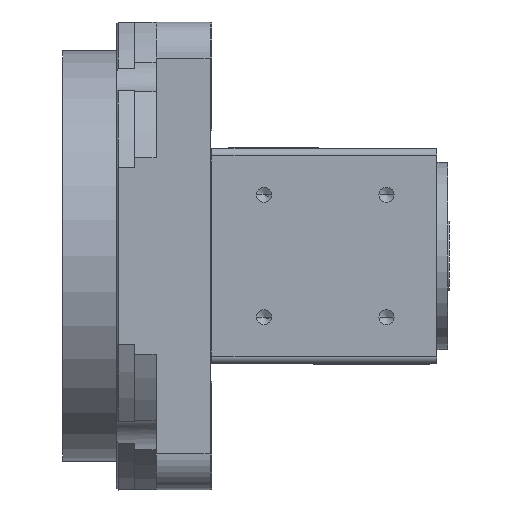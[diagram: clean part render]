
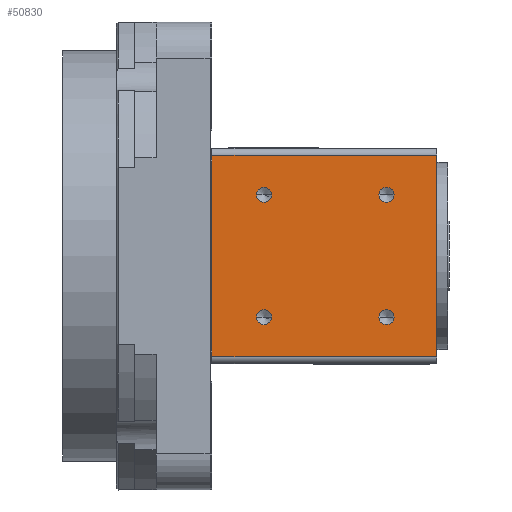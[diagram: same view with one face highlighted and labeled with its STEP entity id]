
A CAD part, left-side view. The second image highlights one B-rep face of the part: STEP entity #50830.
In plain terms, the highlighted planar face has unit normal (-1, 0, 0) as drawn and (0, 1, 0) by its records, which use the part's own axes.
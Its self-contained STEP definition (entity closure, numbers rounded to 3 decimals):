
#370 = ORIENTED_EDGE ( 'NONE', *, *, #48750, .F. ) ;
#797 = ORIENTED_EDGE ( 'NONE', *, *, #66424, .F. ) ;
#2903 = CIRCLE ( 'NONE', #64538, 2.1 ) ;
#2982 = CARTESIAN_POINT ( 'NONE',  ( 17., 32., 19.1 ) ) ;
#5212 = CARTESIAN_POINT ( 'NONE',  ( -30., 32., 68.5 ) ) ;
#7297 = VERTEX_POINT ( 'NONE', #68619 ) ;
#8015 = FACE_OUTER_BOUND ( 'NONE', #32156, .T. ) ;
#8608 = CIRCLE ( 'NONE', #8961, 2.1 ) ;
#8961 = AXIS2_PLACEMENT_3D ( 'NONE', #77478, #77285, #77226 ) ;
#9336 = ORIENTED_EDGE ( 'NONE', *, *, #12305, .F. ) ;
#9453 = ORIENTED_EDGE ( 'NONE', *, *, #28003, .F. ) ;
#12305 = EDGE_CURVE ( 'NONE', #22581, #30643, #39893, .T. ) ;
#14210 = EDGE_CURVE ( 'NONE', #42172, #62481, #20465, .T. ) ;
#14314 = LINE ( 'NONE', #38491, #27038 ) ;
#16028 = CARTESIAN_POINT ( 'NONE',  ( -17., 32., 48.9 ) ) ;
#16467 = EDGE_CURVE ( 'NONE', #47685, #73725, #8608, .T. ) ;
#16894 = CIRCLE ( 'NONE', #20444, 2.1 ) ;
#17859 = VERTEX_POINT ( 'NONE', #58390 ) ;
#17878 = DIRECTION ( 'NONE',  ( 0., -1., 0. ) ) ;
#20444 = AXIS2_PLACEMENT_3D ( 'NONE', #65899, #29630, #72028 ) ;
#20465 = CIRCLE ( 'NONE', #59215, 2.1 ) ;
#20505 = EDGE_LOOP ( 'NONE', ( #56010, #29330 ) ) ;
#20799 = CARTESIAN_POINT ( 'NONE',  ( 28., 32., 65.5 ) ) ;
#21068 = EDGE_CURVE ( 'NONE', #73725, #47685, #27999, .T. ) ;
#22219 = CIRCLE ( 'NONE', #56528, 2.1 ) ;
#22232 = ORIENTED_EDGE ( 'NONE', *, *, #16467, .F. ) ;
#22325 = CARTESIAN_POINT ( 'NONE',  ( -17., 32., 14.9 ) ) ;
#22411 = VERTEX_POINT ( 'NONE', #28673 ) ;
#22581 = VERTEX_POINT ( 'NONE', #20799 ) ;
#23100 = ORIENTED_EDGE ( 'NONE', *, *, #59312, .F. ) ;
#24691 = FACE_BOUND ( 'NONE', #66562, .T. ) ;
#24857 = AXIS2_PLACEMENT_3D ( 'NONE', #60566, #66135, #38213 ) ;
#26276 = VECTOR ( 'NONE', #74587, 1000. ) ;
#26645 = FACE_BOUND ( 'NONE', #20505, .T. ) ;
#27038 = VECTOR ( 'NONE', #38587, 1000. ) ;
#27999 = CIRCLE ( 'NONE', #64514, 2.1 ) ;
#28003 = EDGE_CURVE ( 'NONE', #44404, #22581, #14314, .T. ) ;
#28673 = CARTESIAN_POINT ( 'NONE',  ( -17., 32., 19.1 ) ) ;
#28705 = ORIENTED_EDGE ( 'NONE', *, *, #21068, .F. ) ;
#28726 = CARTESIAN_POINT ( 'NONE',  ( 0., 32., 3. ) ) ;
#29330 = ORIENTED_EDGE ( 'NONE', *, *, #35851, .F. ) ;
#29630 = DIRECTION ( 'NONE',  ( 0., 1., 0. ) ) ;
#30643 = VERTEX_POINT ( 'NONE', #73926 ) ;
#32156 = EDGE_LOOP ( 'NONE', ( #50573, #9336, #9453, #52670 ) ) ;
#35173 = DIRECTION ( 'NONE',  ( 0., 1., 0. ) ) ;
#35378 = AXIS2_PLACEMENT_3D ( 'NONE', #5212, #17878, #60536 ) ;
#35642 = VERTEX_POINT ( 'NONE', #2982 ) ;
#35851 = EDGE_CURVE ( 'NONE', #62481, #42172, #76649, .T. ) ;
#36920 = EDGE_CURVE ( 'NONE', #30643, #17859, #74658, .T. ) ;
#36942 = CARTESIAN_POINT ( 'NONE',  ( -17., 32., 53.1 ) ) ;
#38213 = DIRECTION ( 'NONE',  ( 0., 0., 1. ) ) ;
#38491 = CARTESIAN_POINT ( 'NONE',  ( 28., 32., 68.5 ) ) ;
#38587 = DIRECTION ( 'NONE',  ( 0., 0., 1. ) ) ;
#38658 = EDGE_CURVE ( 'NONE', #7297, #35642, #22219, .T. ) ;
#39893 = LINE ( 'NONE', #54284, #70716 ) ;
#42172 = VERTEX_POINT ( 'NONE', #55628 ) ;
#43462 = CARTESIAN_POINT ( 'NONE',  ( 28., 32., 3. ) ) ;
#44404 = VERTEX_POINT ( 'NONE', #43462 ) ;
#45717 = AXIS2_PLACEMENT_3D ( 'NONE', #71293, #35173, #77370 ) ;
#47658 = DIRECTION ( 'NONE',  ( 0., 0., 1. ) ) ;
#47685 = VERTEX_POINT ( 'NONE', #16028 ) ;
#47739 = DIRECTION ( 'NONE',  ( 0., 1., 0. ) ) ;
#47756 = CARTESIAN_POINT ( 'NONE',  ( 17., 32., 17. ) ) ;
#48750 = EDGE_CURVE ( 'NONE', #35642, #7297, #2903, .T. ) ;
#50140 = ORIENTED_EDGE ( 'NONE', *, *, #38658, .F. ) ;
#50573 = ORIENTED_EDGE ( 'NONE', *, *, #36920, .F. ) ;
#50830 = ADVANCED_FACE ( 'NONE', ( #8015, #73144, #26645, #24691, #71250 ), #78501, .F. ) ;
#52670 = ORIENTED_EDGE ( 'NONE', *, *, #74188, .F. ) ;
#53285 = DIRECTION ( 'NONE',  ( 0., 0., 1. ) ) ;
#53456 = DIRECTION ( 'NONE',  ( 0., 1., 0. ) ) ;
#53712 = CARTESIAN_POINT ( 'NONE',  ( 17., 32., 51. ) ) ;
#54284 = CARTESIAN_POINT ( 'NONE',  ( 0., 32., 65.5 ) ) ;
#54412 = CIRCLE ( 'NONE', #45717, 2.1 ) ;
#55478 = DIRECTION ( 'NONE',  ( -1., 0., 0. ) ) ;
#55628 = CARTESIAN_POINT ( 'NONE',  ( 17., 32., 53.1 ) ) ;
#56010 = ORIENTED_EDGE ( 'NONE', *, *, #14210, .F. ) ;
#56113 = LINE ( 'NONE', #28726, #72230 ) ;
#56159 = EDGE_LOOP ( 'NONE', ( #28705, #22232 ) ) ;
#56528 = AXIS2_PLACEMENT_3D ( 'NONE', #47756, #47739, #47658 ) ;
#58390 = CARTESIAN_POINT ( 'NONE',  ( -28., 32., 3. ) ) ;
#59158 = DIRECTION ( 'NONE',  ( 1., 0., 0. ) ) ;
#59215 = AXIS2_PLACEMENT_3D ( 'NONE', #53712, #53456, #53285 ) ;
#59312 = EDGE_CURVE ( 'NONE', #22411, #66306, #54412, .T. ) ;
#60536 = DIRECTION ( 'NONE',  ( 0., 0., -1. ) ) ;
#60566 = CARTESIAN_POINT ( 'NONE',  ( 17., 32., 51. ) ) ;
#62481 = VERTEX_POINT ( 'NONE', #66500 ) ;
#62683 = EDGE_LOOP ( 'NONE', ( #370, #50140 ) ) ;
#62938 = DIRECTION ( 'NONE',  ( 0., 0., 1. ) ) ;
#63036 = DIRECTION ( 'NONE',  ( 0., 1., 0. ) ) ;
#63102 = CARTESIAN_POINT ( 'NONE',  ( 17., 32., 17. ) ) ;
#64514 = AXIS2_PLACEMENT_3D ( 'NONE', #77497, #77491, #77403 ) ;
#64538 = AXIS2_PLACEMENT_3D ( 'NONE', #63102, #63036, #62938 ) ;
#65899 = CARTESIAN_POINT ( 'NONE',  ( -17., 32., 17. ) ) ;
#66135 = DIRECTION ( 'NONE',  ( 0., 1., 0. ) ) ;
#66306 = VERTEX_POINT ( 'NONE', #22325 ) ;
#66424 = EDGE_CURVE ( 'NONE', #66306, #22411, #16894, .T. ) ;
#66500 = CARTESIAN_POINT ( 'NONE',  ( 17., 32., 48.9 ) ) ;
#66562 = EDGE_LOOP ( 'NONE', ( #23100, #797 ) ) ;
#68619 = CARTESIAN_POINT ( 'NONE',  ( 17., 32., 14.9 ) ) ;
#70716 = VECTOR ( 'NONE', #55478, 1000. ) ;
#71250 = FACE_BOUND ( 'NONE', #56159, .T. ) ;
#71293 = CARTESIAN_POINT ( 'NONE',  ( -17., 32., 17. ) ) ;
#72028 = DIRECTION ( 'NONE',  ( 0., 0., 1. ) ) ;
#72230 = VECTOR ( 'NONE', #59158, 1000. ) ;
#73144 = FACE_BOUND ( 'NONE', #62683, .T. ) ;
#73725 = VERTEX_POINT ( 'NONE', #36942 ) ;
#73926 = CARTESIAN_POINT ( 'NONE',  ( -28., 32., 65.5 ) ) ;
#74188 = EDGE_CURVE ( 'NONE', #17859, #44404, #56113, .T. ) ;
#74587 = DIRECTION ( 'NONE',  ( 0., 0., -1. ) ) ;
#74658 = LINE ( 'NONE', #74846, #26276 ) ;
#74846 = CARTESIAN_POINT ( 'NONE',  ( -28., 32., 68.5 ) ) ;
#76649 = CIRCLE ( 'NONE', #24857, 2.1 ) ;
#77226 = DIRECTION ( 'NONE',  ( 0., 0., 1. ) ) ;
#77285 = DIRECTION ( 'NONE',  ( 0., 1., 0. ) ) ;
#77370 = DIRECTION ( 'NONE',  ( 0., 0., 1. ) ) ;
#77403 = DIRECTION ( 'NONE',  ( 0., 0., 1. ) ) ;
#77478 = CARTESIAN_POINT ( 'NONE',  ( -17., 32., 51. ) ) ;
#77491 = DIRECTION ( 'NONE',  ( 0., 1., 0. ) ) ;
#77497 = CARTESIAN_POINT ( 'NONE',  ( -17., 32., 51. ) ) ;
#78501 = PLANE ( 'NONE',  #35378 ) ;
